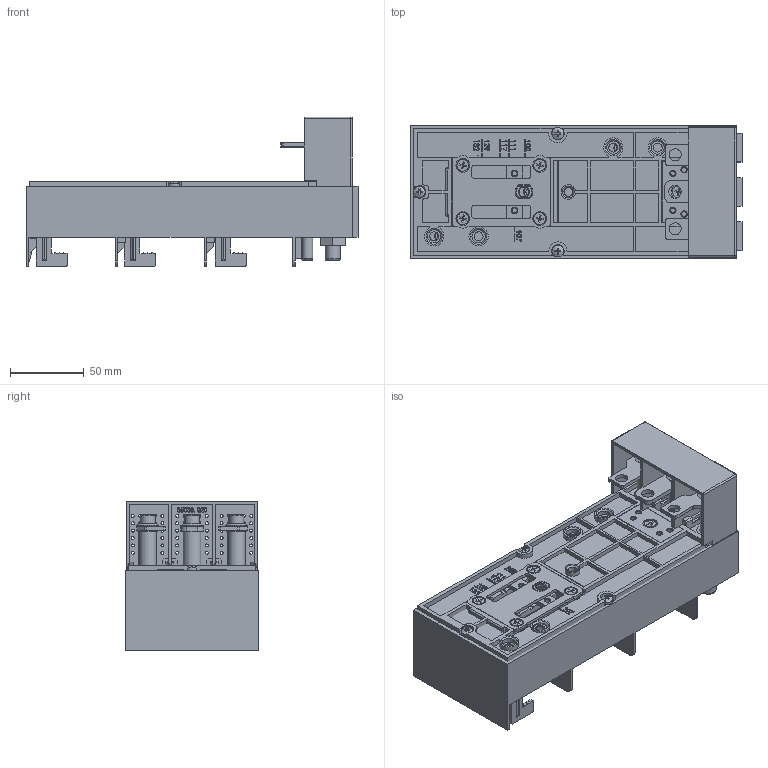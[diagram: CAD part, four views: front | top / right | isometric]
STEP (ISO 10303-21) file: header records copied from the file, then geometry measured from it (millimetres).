
FILE_DESCRIPTION (( 'STEP AP203' ), '1' );
FILE_NAME ('55070.STEP', '2021-08-23T06:04:16', ( '' ), ( '' ), 'SwSTEP 2.0', 'SolidWorks 2017', '' );
FILE_SCHEMA (( 'CONFIG_CONTROL_DESIGN' ));
Products named in the file (2): 55070
Bounding box: 224.5 x 90 x 101.3 mm (x, y, z)
Volume: 761459.5 mm3; surface area: 210894.5 mm2
Topology: 10 solids, 10 shells, 2408 faces, 6463 edges, 4220 vertices
Faces by surface type: plane 1585, cylinder 511, bspline 202, cone 97, torus 11, sphere 2
Full cylindrical faces by diameter (mm): 2 x90, 3.2 x6, 3.3 x2, 3.5 x2, 4 x10, 4.2 x3, 4.3 x4, 4.5 x1, 6 x8, 6.5 x1, 7 x3, 7.5 x1, 8 x12, 8.2 x2, 8.5 x1, 9 x9, 10 x7, 11 x4, 12 x3, 13 x1, 13.891 x2, 15 x3
Entity records: 93248 total; most frequent: CARTESIAN_POINT 34545, ORIENTED_EDGE 12260, DIRECTION 11105, EDGE_CURVE 6130, LINE 4525, VECTOR 4525, VERTEX_POINT 4158, AXIS2_PLACEMENT_3D 3290
